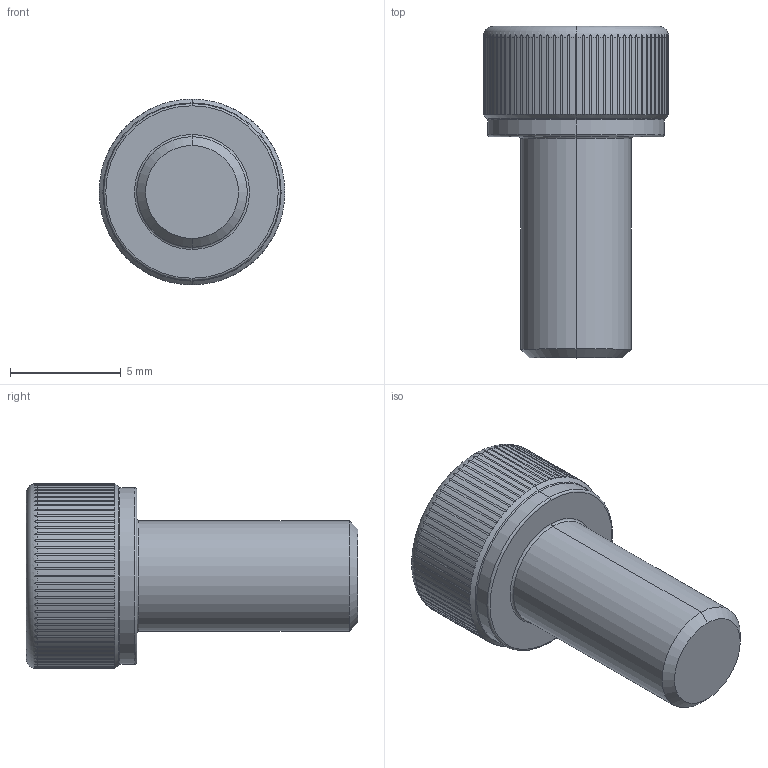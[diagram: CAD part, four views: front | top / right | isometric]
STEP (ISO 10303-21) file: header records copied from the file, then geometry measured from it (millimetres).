
FILE_DESCRIPTION (( 'STEP AP203' ), '1' );
FILE_NAME ('LGDT-304-M5x10.STEP', '2026-08-10T03:43:49', ( '' ), ( '' ), 'SwSTEP 2.0', 'SolidWorks 2020', '' );
FILE_SCHEMA (( 'CONFIG_CONTROL_DESIGN' ));
Length unit declared in the file: millimetre
Products named in the file (1): LGDT-304-M5x10
Bounding box: 8.4 x 15 x 8.4 mm (x, y, z)
Volume: 424.4 mm3; surface area: 425.8 mm2
Topology: 1 solids, 1 shells, 204 faces, 576 edges, 376 vertices
Faces by surface type: cylinder 175, cone 11, plane 10, torus 8
Entity records: 8367 total; most frequent: CARTESIAN_POINT 3208, ORIENTED_EDGE 1152, DIRECTION 988, EDGE_CURVE 576, AXIS2_PLACEMENT_3D 398, VERTEX_POINT 376, EDGE_LOOP 206, ADVANCED_FACE 204
